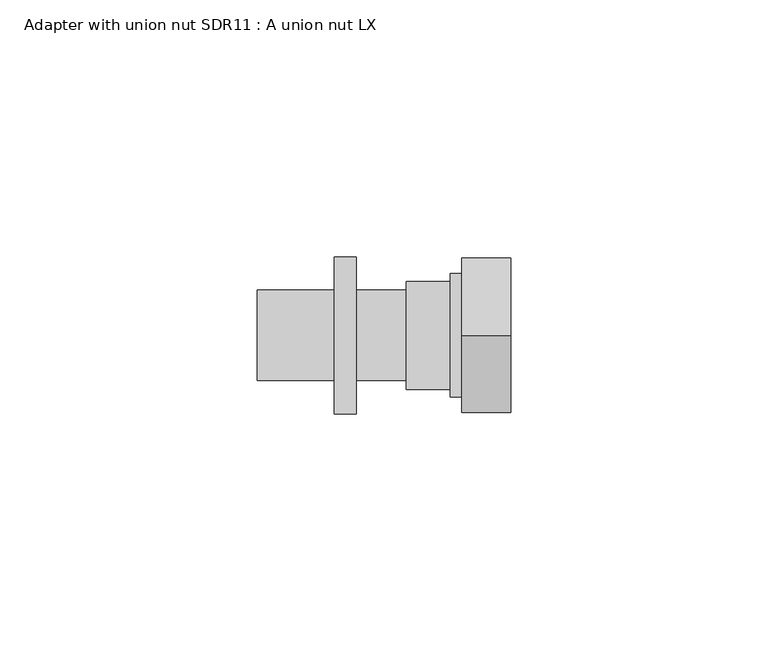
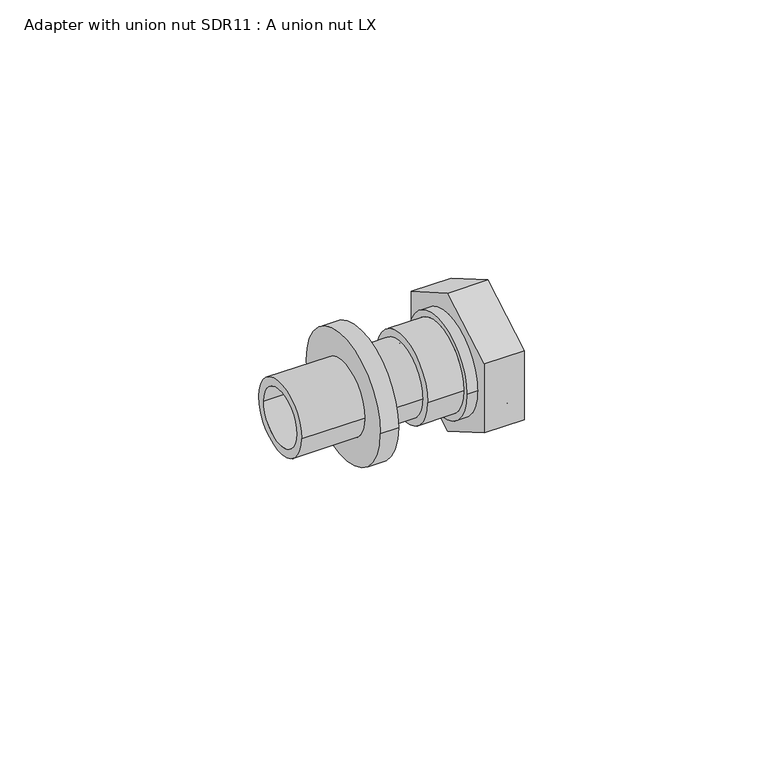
"""IFC4 building model written with IfcOpenShell, lengths in millimetres: pipe fitting geometry, Adapter with union nut SDR11 : A union nut LX."""

import ifcopenshell
import ifcopenshell.guid

model = None  # the IFC model being written
_history = None  # IfcOwnerHistory: only IFC2X3 demands one
_inside = {}  # id of a spatial element -> (the spatial element, [elements in it])
_under = {}  # id of a project, library or spatial element -> (it, [spatial elements below it])
_declared = {}  # id of a project -> (the project, [libraries it declares])
_typed = {}  # id of a type object -> (the type object, [elements of that type])
_made_of = {}  # id of a material, layer set ... -> (it, [elements and type objects made of it])


def new_model(schema):
    """Start an empty IFC model of exactly this schema.

    Asked for "IFC4X3", IfcOpenShell would pick the latest addendum, in which some entities
    have other attributes; the version numbers below select the first issue.
    IFC2X3 requires an IfcOwnerHistory on every rooted entity: one is made here for all.
    """
    global model, _history
    if schema == "IFC4X3":
        model = ifcopenshell.file(schema_version=(4, 3, 0, 0))
    else:
        model = ifcopenshell.file(schema=schema)
    _inside.clear()
    _under.clear()
    _declared.clear()
    _typed.clear()
    _made_of.clear()
    _history = None
    if model.schema == "IFC2X3":
        org = make("IfcOrganization", Name="unknown")
        user = make(
            "IfcPersonAndOrganization",
            ThePerson=make("IfcPerson", FamilyName="unknown"),
            TheOrganization=org,
        )
        app = make(
            "IfcApplication",
            ApplicationDeveloper=org,
            Version="unknown",
            ApplicationFullName="unknown",
            ApplicationIdentifier="unknown",
        )
        _history = make(
            "IfcOwnerHistory",
            OwningUser=user,
            OwningApplication=app,
            ChangeAction="ADDED",
            CreationDate=0,
        )
    return model


def make(cls, **values):
    """One entity of the class cls with the attributes given. An attribute that is None is left unset."""
    return model.create_entity(
        cls, **{name: value for name, value in values.items() if value is not None}
    )


def rooted(cls, **values):
    """An entity with a GlobalId (a new one), such as an element, a storey or a relation."""
    return make(cls, GlobalId=ifcopenshell.guid.new(), OwnerHistory=_history, **values)


def si_unit(unit_type, name, prefix=None):
    """IfcSIUnit, for example si_unit("LENGTHUNIT", "METRE", prefix="MILLI")."""
    return make("IfcSIUnit", UnitType=unit_type, Prefix=prefix, Name=name)


def assignment(units):
    """IfcUnitAssignment: the units of a project."""
    return None if units is None else make("IfcUnitAssignment", Units=units)


def point(xyz):
    """IfcCartesianPoint."""
    return None if xyz is None else make("IfcCartesianPoint", Coordinates=xyz)


def direction(xyz):
    """IfcDirection."""
    return None if xyz is None else make("IfcDirection", DirectionRatios=xyz)


def frame(location, z_axis=None, x_axis=None):
    """IfcAxis2Placement3D, a coordinate frame: its origin and axes. An axis left out is left unset."""
    return make(
        "IfcAxis2Placement3D",
        Location=point(location),
        Axis=direction(z_axis),
        RefDirection=direction(x_axis),
    )


def origin():
    """The frame at (0, 0, 0) with its axes left unset."""
    return frame((0.0, 0.0, 0.0))


def place(relative_to, where):
    """IfcLocalPlacement: puts the frame where relative to a parent placement (None: the world)."""
    return make(
        "IfcLocalPlacement", PlacementRelTo=relative_to, RelativePlacement=where
    )


def context(
    kind, dimensions, precision=None, world=None, true_north=None, identifier=None
):
    """IfcGeometricRepresentationContext, for example the 3D "Model" context."""
    return make(
        "IfcGeometricRepresentationContext",
        ContextIdentifier=identifier,
        ContextType=kind,
        CoordinateSpaceDimension=dimensions,
        Precision=precision,
        WorldCoordinateSystem=world,
        TrueNorth=true_north,
    )


def project(units=None, contexts=None):
    """IfcProject with its units and contexts."""
    return rooted(
        "IfcProject",
        Name="project",
        RepresentationContexts=contexts,
        UnitsInContext=assignment(units),
    )


def spatial(cls, under=None, at=None, **own):
    """A site, building, storey or space (cls), placed at a placement, below another one or the project."""
    s = rooted(cls, ObjectPlacement=at, **own)
    if under is not None:
        _under.setdefault(under.id(), (under, []))[1].append(s)
    return s


def polyline(points):
    """IfcPolyline through the points."""
    return make("IfcPolyline", Points=[point(p) for p in points])


def circle_curve(where, radius):
    """IfcCircle in the frame where."""
    return make("IfcCircle", Position=where, Radius=radius)


def shape(context_of_items, identifier, shape_type, items):
    """IfcShapeRepresentation: the items that make up one representation, for example the "Body"."""
    return make(
        "IfcShapeRepresentation",
        ContextOfItems=context_of_items,
        RepresentationIdentifier=identifier,
        RepresentationType=shape_type,
        Items=items,
    )


def source(mapping_origin, context_of_items, identifier, shape_type, items):
    """IfcRepresentationMap: a shape defined once, which mapped items show again and again."""
    return make(
        "IfcRepresentationMap",
        MappingOrigin=mapping_origin,
        MappedRepresentation=shape(context_of_items, identifier, shape_type, items),
    )


def transform(
    local_origin,
    x_axis=None,
    y_axis=None,
    z_axis=None,
    scale=None,
    scale2=None,
    scale3=None,
    uniform=True,
):
    """IfcCartesianTransformationOperator3D, or its non-uniform kind. x_axis, y_axis, z_axis: its Axis1, 2, 3."""
    if uniform:
        return make(
            "IfcCartesianTransformationOperator3D",
            Axis1=direction(x_axis),
            Axis2=direction(y_axis),
            LocalOrigin=point(local_origin),
            Scale=scale,
            Axis3=direction(z_axis),
        )
    return make(
        "IfcCartesianTransformationOperator3DnonUniform",
        Axis1=direction(x_axis),
        Axis2=direction(y_axis),
        LocalOrigin=point(local_origin),
        Scale=scale,
        Axis3=direction(z_axis),
        Scale2=scale2,
        Scale3=scale3,
    )


def mapped(mapping_source, mapping_target):
    """IfcMappedItem: shows the shape of a source again, moved by a transform."""
    return make(
        "IfcMappedItem", MappingSource=mapping_source, MappingTarget=mapping_target
    )


def made_of(thing, what):
    """Note that an element or type object is made of a material, layer set ...; save() writes the relation."""
    if what is not None:
        _made_of.setdefault(what.id(), (what, []))[1].append(thing)
    return thing


def element(
    cls,
    number,
    at=None,
    inside=None,
    cuts=None,
    type_object=None,
    material=None,
    context=None,
    identifier="Body",
    shape_type=None,
    held_by="IfcProductDefinitionShape",
    body=None,
    shapes=None,
    **own,
):
    """One element of the class cls, such as IfcWall. Its Tag is "e" and its number.

    at: its placement. inside: the storey or other place that contains it. cuts: it is an
    opening in that element (IfcRelVoidsElement). A single representation is given by context,
    identifier, shape_type and body (its items); several are given by shapes. held_by: the class
    of the entity that holds the representations. save() writes the other relations.
    """
    e = rooted(cls, Tag="e%d" % number, ObjectPlacement=at, **own)
    if body is not None:
        shapes = [shape(context, identifier, shape_type, body)]
    if shapes is not None:
        e.Representation = make(held_by, Representations=shapes)
    if inside is not None:
        _inside.setdefault(inside.id(), (inside, []))[1].append(e)
    if cuts is not None:
        rooted(
            "IfcRelVoidsElement", RelatingBuildingElement=cuts, RelatedOpeningElement=e
        )
    if type_object is not None:
        _typed.setdefault(type_object.id(), (type_object, []))[1].append(e)
    return made_of(e, material)


def aggregate(whole, parts):
    """IfcRelAggregates: a whole, such as a stair, and the parts it consists of."""
    return rooted("IfcRelAggregates", RelatingObject=whole, RelatedObjects=parts)


def save(model, path):
    """Write the relations noted so far, then the file.

    IfcRelAggregates (storeys below a building ...), IfcRelContainedInSpatialStructure (elements
    in a storey), IfcRelDefinesByType, IfcRelAssociatesMaterial and IfcRelDeclares: one each for
    every whole, place, type object, material and project.
    """
    for whole, parts in _under.values():
        aggregate(whole, parts)
    for where, things in _inside.values():
        rooted(
            "IfcRelContainedInSpatialStructure",
            RelatedElements=things,
            RelatingStructure=where,
        )
    for kind, things in _typed.values():
        rooted("IfcRelDefinesByType", RelatedObjects=things, RelatingType=kind)
    for what, things in _made_of.values():
        rooted("IfcRelAssociatesMaterial", RelatedObjects=things, RelatingMaterial=what)
    for by, libraries in _declared.values():
        rooted("IfcRelDeclares", RelatingContext=by, RelatedDefinitions=libraries)
    model.write(path)


def plane_surface(at):
    """IfcPlane: the flat surface through the origin of the frame at, square to its z axis."""
    return make("IfcPlane", Position=at)


def cylinder_surface(at, radius):
    """IfcCylindricalSurface: all points at the distance radius from the z axis of the frame at."""
    return make("IfcCylindricalSurface", Position=at, Radius=radius)


def revolved_surface(curve, axis_point, axis_direction):
    """IfcSurfaceOfRevolution: the curve turned about the line through axis_point along axis_direction."""
    return make(
        "IfcSurfaceOfRevolution",
        SweptCurve=make("IfcArbitraryOpenProfileDef", ProfileType="CURVE", Curve=curve),
        AxisPosition=make("IfcAxis1Placement", Location=point(axis_point), Axis=direction(axis_direction)),
    )


def advanced_brep(points, edges, surfaces, faces):
    """IfcAdvancedBrep: a solid bounded by faces that lie on surfaces and meet in shared edges.

    An edge is (start, end): straight between two places in points (the first is 0);
    or (start, end, curve); or (start, end, curve, False) where it runs against its curve.
    A face is (place in surfaces, loops), or (place, loops, False) where it looks against
    its surface's normal. A loop lists edges by number (the first is 1), with a minus sign
    where the edge is run from its end to its start. The first loop is the outer one.
    """
    corners = [point(p) for p in points]
    vertices = [make("IfcVertexPoint", VertexGeometry=c) for c in corners]
    made = []
    for start, end, *more in edges:
        made.append(
            make(
                "IfcEdgeCurve",
                EdgeStart=vertices[start],
                EdgeEnd=vertices[end],
                EdgeGeometry=more[0] if more else make("IfcPolyline", Points=[corners[start], corners[end]]),
                SameSense=more[1] if len(more) > 1 else True,
            )
        )
    hull = []
    for where, loops, *sense in faces:
        bounds = []
        for j, loop in enumerate(loops):
            ring = [make("IfcOrientedEdge", EdgeElement=made[abs(k) - 1], Orientation=k > 0) for k in loop]
            bounds.append(
                make(
                    "IfcFaceOuterBound" if j == 0 else "IfcFaceBound",
                    Bound=make("IfcEdgeLoop", EdgeList=ring),
                    Orientation=True,
                )
            )
        hull.append(make("IfcAdvancedFace", Bounds=bounds, FaceSurface=surfaces[where], SameSense=sense[0] if sense else True))
    return make("IfcAdvancedBrep", Outer=make("IfcClosedShell", CfsFaces=hull))


def adapter_with_union_nut_sdr11_a_union_nut_lx_fcff2328(model_context):
    return source(origin(), model_context, "Body", "AdvancedBrep", [
        advanced_brep(
        [(20.3, 12.0, 0.0), (20.3, -12.0, 0.0), (8.5, -12.0, 0.0), (8.5, 12.0, 0.0), (8.5, 10.5, 0.0), (8.5, -10.5, 0.0), (0.0, -10.5, 0.0), (0.0, 10.5, 0.0), (0.0, -6.8, 0.0), (0.0, 6.8, 0.0), (10.9, 10.5, 0.0), (10.9, -10.5, 0.0), (20.3, -10.5, 0.0), (20.3, 10.5, 0.0), (10.9, 6.8, 0.0), (10.9, -6.8, 0.0)],
        [
            (0, 1, circle_curve(frame((20.3, 0.0, 0.0), z_axis=(-1.0, 0.0, 0.0), x_axis=(0.0, -1.0, 0.0)), 12.0)),
            (1, 2),
            (2, 3, circle_curve(frame((8.5, 0.0, 0.0), z_axis=(1.0, 0.0, 0.0), x_axis=(0.0, -1.0, 0.0)), 12.0)),
            (3, 0),
            (4, 5, circle_curve(frame((8.5, 0.0, 0.0), z_axis=(-1.0, 0.0, 0.0), x_axis=(0.0, -1.0, 0.0)), 10.5)),
            (5, 6),
            (6, 7, circle_curve(frame((0.0, 0.0, 0.0), z_axis=(1.0, 0.0, 0.0), x_axis=(0.0, -1.0, 0.0)), 10.5)),
            (7, 4),
            (1, 0, circle_curve(frame((20.3, 0.0, 0.0), z_axis=(-1.0, 0.0, 0.0), x_axis=(0.0, 1.0, 0.0)), 12.0)),
            (3, 2, circle_curve(frame((8.5, 0.0, 0.0), z_axis=(1.0, 0.0, 0.0), x_axis=(0.0, 1.0, 0.0)), 12.0)),
            (6, 7, circle_curve(frame((0.0, 0.0, 0.0), z_axis=(-1.0, 0.0, 0.0), x_axis=(0.0, 1.0, 0.0)), 10.5)),
            (8, 9, circle_curve(frame((0.0, 0.0, 0.0), z_axis=(1.0, 0.0, 0.0), x_axis=(0.0, -1.0, 0.0)), 6.8)),
            (9, 8, circle_curve(frame((0.0, 0.0, 0.0), z_axis=(1.0, 0.0, 0.0), x_axis=(0.0, 1.0, 0.0)), 6.8)),
            (5, 4, circle_curve(frame((8.5, 0.0, 0.0), z_axis=(-1.0, 0.0, 0.0), x_axis=(0.0, 1.0, 0.0)), 10.5)),
            (10, 11, circle_curve(frame((10.9, 0.0, 0.0), z_axis=(-1.0, 0.0, 0.0), x_axis=(0.0, -1.0, 0.0)), 10.5)),
            (11, 12),
            (12, 13, circle_curve(frame((20.3, 0.0, 0.0), z_axis=(1.0, 0.0, 0.0), x_axis=(0.0, -1.0, 0.0)), 10.5)),
            (13, 10),
            (12, 13, circle_curve(frame((20.3, 0.0, 0.0), z_axis=(-1.0, 0.0, 0.0), x_axis=(0.0, 1.0, 0.0)), 10.5)),
            (11, 10, circle_curve(frame((10.9, 0.0, 0.0), z_axis=(-1.0, 0.0, 0.0), x_axis=(0.0, 1.0, 0.0)), 10.5)),
            (14, 15, circle_curve(frame((10.9, 0.0, 0.0), z_axis=(-1.0, 0.0, 0.0), x_axis=(0.0, -1.0, 0.0)), 6.8)),
            (15, 14, circle_curve(frame((10.9, 0.0, 0.0), z_axis=(-1.0, 0.0, 0.0), x_axis=(0.0, 1.0, 0.0)), 6.8)),
            (8, 15),
            (14, 9),
        ],
        [
            cylinder_surface(frame((0.0, 0.0, 0.0), z_axis=(1.0, 0.0, 0.0), x_axis=(0.0, -1.0, 0.0)), 12.0),
            cylinder_surface(frame((0.0, 0.0, 0.0), z_axis=(1.0, 0.0, 0.0), x_axis=(0.0, -1.0, 0.0)), 10.5),
            cylinder_surface(frame((0.0, 0.0, 0.0), z_axis=(1.0, 0.0, 0.0), x_axis=(0.0, 1.0, 0.0)), 12.0),
            plane_surface(frame((0.0, 0.0, 0.0), z_axis=(-1.0, 0.0, 0.0), x_axis=(0.0, 1.0, 0.0))),
            cylinder_surface(frame((0.0, 0.0, 0.0), z_axis=(1.0, 0.0, 0.0), x_axis=(0.0, 1.0, 0.0)), 10.5),
            plane_surface(frame((8.5, 0.0, 0.0), z_axis=(-1.0, 0.0, 0.0), x_axis=(0.0, 1.0, 0.0))),
            revolved_surface(polyline([(20.3, -10.5, 0.0), (10.9, -10.5, 0.0)]), (0.0, 0.0, 0.0), (1.0, 0.0, 0.0)),
            plane_surface(frame((20.3, 0.0, 0.0), z_axis=(1.0, 0.0, 0.0), x_axis=(0.0, 1.0, 0.0))),
            revolved_surface(polyline([(20.3, 10.5, 0.0), (10.9, 10.5, 0.0)]), (0.0, 0.0, 0.0), (1.0, 0.0, 0.0)),
            plane_surface(frame((10.9, 0.0, 0.0), z_axis=(1.0, 0.0, 0.0), x_axis=(0.0, 1.0, 0.0))),
            revolved_surface(polyline([(10.9, -6.8, 0.0), (0.0, -6.8, 0.0)]), (0.0, 0.0, 0.0), (1.0, 0.0, 0.0)),
            revolved_surface(polyline([(10.9, 6.8, 0.0), (0.0, 6.8, 0.0)]), (0.0, 0.0, 0.0), (1.0, 0.0, 0.0)),
        ],
        [
            (0, [[1, 2, 3, 4]]),
            (1, [[5, 6, 7, 8]]),
            (2, [[-2, 9, -4, 10]]),
            (3, [[-7, 11], [12, 13]]),
            (4, [[-6, 14, -8, -11]]),
            (5, [[-3, -10], [-5, -14]]),
            (6, [[15, 16, 17, 18]]),
            (7, [[-1, -9], [-17, 19]]),
            (8, [[-16, 20, -18, -19]]),
            (9, [[-15, -20], [21, 22]]),
            (10, [[-12, 23, -21, 24]]),
            (11, [[-23, -13, -24, -22]]),
        ],
    ),
        advanced_brep(
        [(20.3, -15.0, -8.660254), (10.8, -15.0, -8.660254), (10.8, 0.0, -17.3205081), (20.3, 0.0, -17.3205081), (10.8, 15.0, -8.660254), (20.3, 15.0, -8.660254), (10.8, 15.0, 8.660254), (20.3, 15.0, 8.660254), (10.8, 0.0, 17.3205081), (20.3, 0.0, 17.3205081), (10.8, -15.0, 8.660254), (20.3, -15.0, 8.660254), (10.8, -6.8, 0.0), (10.8, 6.8, 0.0), (20.3, 12.0, 0.0), (20.3, -12.0, 0.0), (15.55, 12.0, 0.0), (15.55, -12.0, 0.0), (15.55, 6.8, 0.0), (15.55, -6.8, 0.0)],
        [
            (0, 1),
            (1, 2),
            (2, 3),
            (3, 0),
            (2, 4),
            (4, 5),
            (5, 3),
            (4, 6),
            (6, 7),
            (7, 5),
            (6, 8),
            (8, 9),
            (9, 7),
            (8, 10),
            (10, 11),
            (11, 9),
            (1, 10),
            (12, 13, circle_curve(frame((10.8, 0.0, 0.0), z_axis=(1.0, 0.0, 0.0), x_axis=(0.0, -1.0, 0.0)), 6.8)),
            (13, 12, circle_curve(frame((10.8, 0.0, 0.0), z_axis=(1.0, 0.0, 0.0), x_axis=(0.0, -1.0, 0.0)), 6.8)),
            (0, 11),
            (14, 15, circle_curve(frame((20.3, 0.0, 0.0), z_axis=(-1.0, 0.0, 0.0), x_axis=(0.0, -1.0, 0.0)), 12.0)),
            (15, 14, circle_curve(frame((20.3, 0.0, 0.0), z_axis=(-1.0, 0.0, 0.0), x_axis=(0.0, -1.0, 0.0)), 12.0)),
            (16, 17, circle_curve(frame((15.55, 0.0, 0.0), z_axis=(1.0, 0.0, 0.0), x_axis=(0.0, -1.0, 0.0)), 12.0)),
            (17, 16, circle_curve(frame((15.55, 0.0, 0.0), z_axis=(1.0, 0.0, 0.0), x_axis=(0.0, -1.0, 0.0)), 12.0)),
            (18, 19, circle_curve(frame((15.55, 0.0, 0.0), z_axis=(-1.0, 0.0, 0.0), x_axis=(0.0, -1.0, 0.0)), 6.8)),
            (19, 18, circle_curve(frame((15.55, 0.0, 0.0), z_axis=(-1.0, 0.0, 0.0), x_axis=(0.0, -1.0, 0.0)), 6.8)),
            (17, 15),
            (14, 16),
            (18, 13),
            (12, 19),
        ],
        [
            plane_surface(frame((10.8, -15.0, -8.660254), z_axis=(0.0, -0.5000000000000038, -0.8660254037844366), x_axis=(0.0, 0.8660254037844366, -0.5000000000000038))),
            plane_surface(frame((10.8, 0.0, -17.3205081), z_axis=(0.0, 0.49999999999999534, -0.8660254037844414), x_axis=(0.0, 0.8660254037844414, 0.49999999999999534))),
            plane_surface(frame((10.8, 15.0, -8.660254), z_axis=(0.0, 1.0, 0.0), x_axis=(0.0, 0.0, 1.0))),
            plane_surface(frame((10.8, 15.0, 8.660254), z_axis=(0.0, 0.5000000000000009, 0.8660254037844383), x_axis=(0.0, -0.8660254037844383, 0.5000000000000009))),
            plane_surface(frame((10.8, 0.0, 17.3205081), z_axis=(0.0, -0.4999999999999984, 0.8660254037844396), x_axis=(0.0, -0.8660254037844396, -0.4999999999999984))),
            plane_surface(frame((10.8, 0.0, 0.0), z_axis=(-1.0, 0.0, 0.0), x_axis=(0.0, 0.0, -1.0))),
            plane_surface(frame((10.8, -15.0, 8.660254), z_axis=(0.0, -1.0, 0.0), x_axis=(0.0, 0.0, -1.0))),
            plane_surface(frame((20.3, -15.0, 8.660254), z_axis=(1.0, 0.0, 0.0), x_axis=(0.0, 0.0, -1.0))),
            plane_surface(frame((15.55, -12.0, 0.0), z_axis=(1.0, 0.0, 0.0), x_axis=(0.0, 0.0, 1.0))),
            revolved_surface(polyline([(15.55, -12.0, 0.0), (20.3, -12.0, 0.0)]), (45.0991925, 0.0, 0.0), (-1.0, 0.0, 0.0)),
            revolved_surface(polyline([(10.8, -6.8, 0.0), (15.55, -6.8, 0.0)]), (15.55, 0.0, 0.0), (-1.0, 0.0, 0.0)),
        ],
        [
            (0, [[1, 2, 3, 4]]),
            (1, [[-3, 5, 6, 7]]),
            (2, [[-6, 8, 9, 10]]),
            (3, [[-9, 11, 12, 13]]),
            (4, [[-12, 14, 15, 16]]),
            (5, [[-2, 17, -14, -11, -8, -5], [18, 19]]),
            (6, [[-1, 20, -15, -17]]),
            (7, [[-4, -7, -10, -13, -16, -20], [21, 22]]),
            (8, [[23, 24], [25, 26]]),
            (9, [[-24, 27, -21, 28]]),
            (9, [[-23, -28, -22, -27]]),
            (10, [[29, -18, 30, -25]]),
            (10, [[-29, -26, -30, -19]]),
        ],
    ),
        advanced_brep(
        [(-14.0, 8.8, 0.0), (-14.0, -8.8, 0.0), (-29.0, -8.8, 0.0), (-29.0, 8.8, 0.0), (-9.7, 15.25, 0.0), (-9.7, -15.25, 0.0), (-14.0, -15.25, 0.0), (-14.0, 15.25, 0.0), (0.0, 8.8, 0.0), (0.0, -8.8, 0.0), (-9.7, -8.8, 0.0), (-9.7, 8.8, 0.0), (-29.0, 6.8, 0.0), (-29.0, -6.8, 0.0), (-14.0, -6.8, 0.0), (0.0, -6.8, 0.0), (0.0, 6.8, 0.0), (-14.0, 6.8, 0.0)],
        [
            (0, 1, circle_curve(frame((-14.0, 0.0, 0.0), z_axis=(-1.0, 0.0, 0.0), x_axis=(0.0, -1.0, 0.0)), 8.8)),
            (1, 2),
            (2, 3, circle_curve(frame((-29.0, 0.0, 0.0), z_axis=(1.0, 0.0, 0.0), x_axis=(0.0, -1.0, 0.0)), 8.8)),
            (3, 0),
            (4, 5, circle_curve(frame((-9.7, 0.0, 0.0), z_axis=(-1.0, 0.0, 0.0), x_axis=(0.0, -1.0, 0.0)), 15.25)),
            (5, 6),
            (6, 7, circle_curve(frame((-14.0, 0.0, 0.0), z_axis=(1.0, 0.0, 0.0), x_axis=(0.0, -1.0, 0.0)), 15.25)),
            (7, 4),
            (8, 9, circle_curve(frame((0.0, 0.0, 0.0), z_axis=(-1.0, 0.0, 0.0), x_axis=(0.0, -1.0, 0.0)), 8.8)),
            (9, 10),
            (10, 11, circle_curve(frame((-9.7, 0.0, 0.0), z_axis=(1.0, 0.0, 0.0), x_axis=(0.0, -1.0, 0.0)), 8.8)),
            (11, 8),
            (12, 13, circle_curve(frame((-29.0, 0.0, 0.0), z_axis=(-1.0, 0.0, 0.0), x_axis=(0.0, -1.0, 0.0)), 6.8)),
            (13, 14),
            (14, 15),
            (15, 16, circle_curve(frame((0.0, 0.0, 0.0), z_axis=(1.0, 0.0, 0.0), x_axis=(0.0, -1.0, 0.0)), 6.8)),
            (16, 17),
            (17, 12),
            (2, 3, circle_curve(frame((-29.0, 0.0, 0.0), z_axis=(-1.0, 0.0, 0.0), x_axis=(0.0, 1.0, 0.0)), 8.8)),
            (12, 13, circle_curve(frame((-29.0, 0.0, 0.0), z_axis=(1.0, 0.0, 0.0), x_axis=(0.0, 1.0, 0.0)), 6.8)),
            (1, 0, circle_curve(frame((-14.0, 0.0, 0.0), z_axis=(-1.0, 0.0, 0.0), x_axis=(0.0, 1.0, 0.0)), 8.8)),
            (6, 7, circle_curve(frame((-14.0, 0.0, 0.0), z_axis=(-1.0, 0.0, 0.0), x_axis=(0.0, 1.0, 0.0)), 15.25)),
            (5, 4, circle_curve(frame((-9.7, 0.0, 0.0), z_axis=(-1.0, 0.0, 0.0), x_axis=(0.0, 1.0, 0.0)), 15.25)),
            (10, 11, circle_curve(frame((-9.7, 0.0, 0.0), z_axis=(-1.0, 0.0, 0.0), x_axis=(0.0, 1.0, 0.0)), 8.8)),
            (9, 8, circle_curve(frame((0.0, 0.0, 0.0), z_axis=(-1.0, 0.0, 0.0), x_axis=(0.0, 1.0, 0.0)), 8.8)),
            (15, 16, circle_curve(frame((0.0, 0.0, 0.0), z_axis=(-1.0, 0.0, 0.0), x_axis=(0.0, 1.0, 0.0)), 6.8)),
        ],
        [
            cylinder_surface(frame((0.0, 0.0, 0.0), z_axis=(1.0, 0.0, 0.0), x_axis=(0.0, -1.0, 0.0)), 8.8),
            cylinder_surface(frame((0.0, 0.0, 0.0), z_axis=(1.0, 0.0, 0.0), x_axis=(0.0, -1.0, 0.0)), 15.25),
            revolved_surface(polyline([(0.0, -6.8, 0.0), (-29.0, -6.8, 0.0)]), (0.0, 0.0, 0.0), (1.0, 0.0, 0.0)),
            plane_surface(frame((-29.0, 0.0, 0.0), z_axis=(-1.0, 0.0, 0.0), x_axis=(0.0, 1.0, 0.0))),
            cylinder_surface(frame((0.0, 0.0, 0.0), z_axis=(1.0, 0.0, 0.0), x_axis=(0.0, 1.0, 0.0)), 8.8),
            plane_surface(frame((-14.0, 0.0, 0.0), z_axis=(-1.0, 0.0, 0.0), x_axis=(0.0, 1.0, 0.0))),
            cylinder_surface(frame((0.0, 0.0, 0.0), z_axis=(1.0, 0.0, 0.0), x_axis=(0.0, 1.0, 0.0)), 15.25),
            plane_surface(frame((-9.7, 0.0, 0.0), z_axis=(1.0, 0.0, 0.0), x_axis=(0.0, 1.0, 0.0))),
            plane_surface(frame((0.0, 0.0, 0.0), z_axis=(1.0, 0.0, 0.0), x_axis=(0.0, 1.0, 0.0))),
            revolved_surface(polyline([(0.0, 6.8, 0.0), (-29.0, 6.8, 0.0)]), (0.0, 0.0, 0.0), (1.0, 0.0, 0.0)),
        ],
        [
            (0, [[1, 2, 3, 4]]),
            (1, [[5, 6, 7, 8]]),
            (0, [[9, 10, 11, 12]]),
            (2, [[13, 14, 15, 16, 17, 18]]),
            (3, [[-3, 19], [-13, 20]]),
            (4, [[-2, 21, -4, -19]]),
            (5, [[-7, 22], [-1, -21]]),
            (6, [[-6, 23, -8, -22]]),
            (7, [[-5, -23], [-11, 24]]),
            (4, [[-10, 25, -12, -24]]),
            (8, [[-9, -25], [-16, 26]]),
            (9, [[-20, -18, -17, -26, -15, -14]]),
        ],
    ),
    ])


if __name__ == "__main__":
    model = new_model("IFC4")
    model_context = context("Model", 3, world=origin())
    ifc_project = project(units=[si_unit("LENGTHUNIT", "METRE", prefix="MILLI")], contexts=[model_context])
    site = spatial("IfcSite", under=ifc_project)
    building = spatial("IfcBuilding", under=site)
    placement = place(None, origin())
    adapter_with_union_nut_sdr11_a_union_nut_lx_shape = adapter_with_union_nut_sdr11_a_union_nut_lx_fcff2328(model_context)
    element("IfcPipeFitting", 1, ObjectType="Adapter with union nut SDR11 : A union nut LX", at=placement, inside=building, context=model_context, shape_type="MappedRepresentation", body=[
        mapped(adapter_with_union_nut_sdr11_a_union_nut_lx_shape, transform((0.0, 0.0, 0.0), x_axis=(1.0, 0.0, 0.0), y_axis=(0.0, 1.0, 0.0), z_axis=(0.0, 0.0, 1.0))),
    ])
    save(model, "model.ifc")
